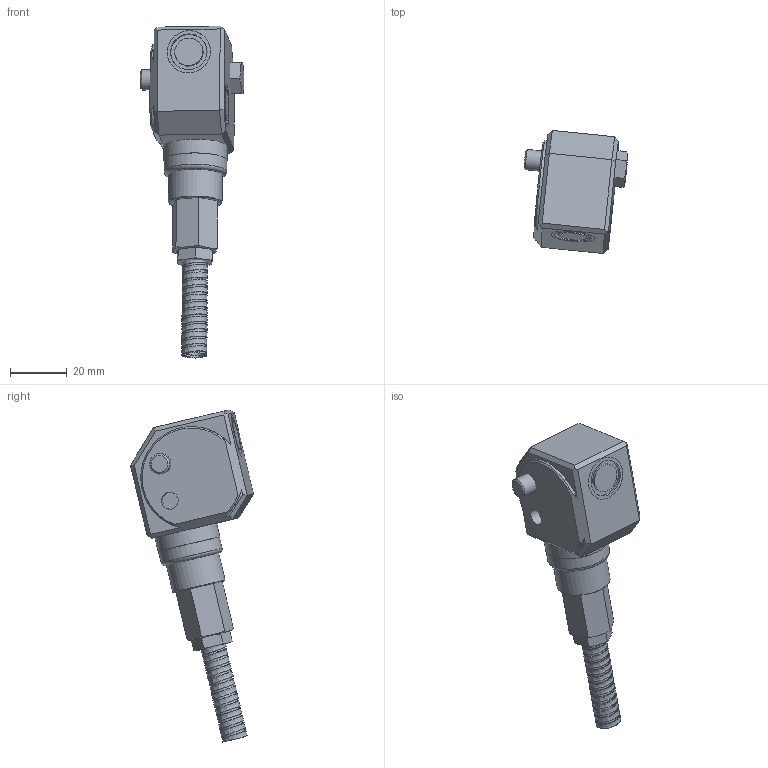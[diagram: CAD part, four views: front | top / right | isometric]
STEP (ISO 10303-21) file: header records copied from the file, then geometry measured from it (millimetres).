
FILE_DESCRIPTION(/* description */ (''),/* implementation_level */ '2;1');
FILE_NAME(/* name */ 'Z:\Engineering\Drawings\3D Library\Assemblies\Website\Triaxial Side\HS-173 HFFR Conduit\HS-173XXX37C02.stp',/* time_stamp */ '2023-03-25T21:00:16+00:00',/* author */ ('Ricardo.Peneda'),/* organization */ (''),/* preprocessor_version */ 'ST-DEVELOPER v18.1',/* originating_system */ 'Autodesk Inventor 2021',/* authorisation */ '');
FILE_SCHEMA (('AUTOMOTIVE_DESIGN { 1 0 10303 214 3 1 1 }'));
Length unit declared in the file: inch
Products named in the file (1): HS-173XXX37C02_Shrinkwrap_1
Bounding box: 36.71 x 43.48 x 117.34 mm (x, y, z)
Volume: 31853.8 mm3; surface area: 21284.3 mm2
Topology: 8 solids, 8 shells, 166 faces, 420 edges, 298 vertices
Faces by surface type: plane 87, cylinder 38, cone 31, bspline 8, torus 2
Full cylindrical faces by diameter (mm): 4.5 x1, 6 x2, 6.5 x1, 7 x1, 7.2 x1, 7.9 x2, 8.6 x1, 9 x1, 10 x2, 10.2 x1, 11.959 x1, 12 x3, 13 x2, 14 x2, 14.95 x3, 15 x2, 15.34 x2, 15.35 x2, 18 x1, 19 x1, 19.95 x1, 20.23 x1, 22.2 x1, 22.43 x1
Entity records: 19313 total; most frequent: CARTESIAN_POINT 15016, DIRECTION 868, ORIENTED_EDGE 840, EDGE_CURVE 420, AXIS2_PLACEMENT_3D 352, VERTEX_POINT 298, EDGE_LOOP 200, CIRCLE 187
